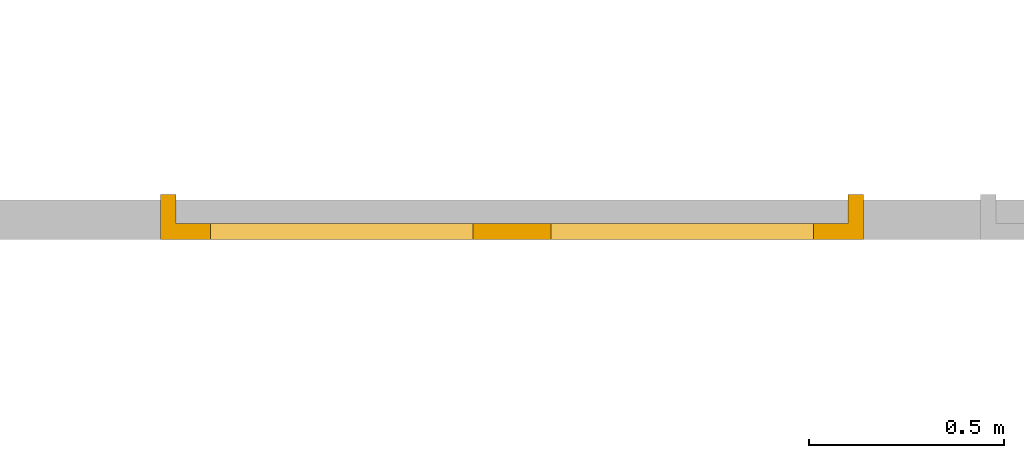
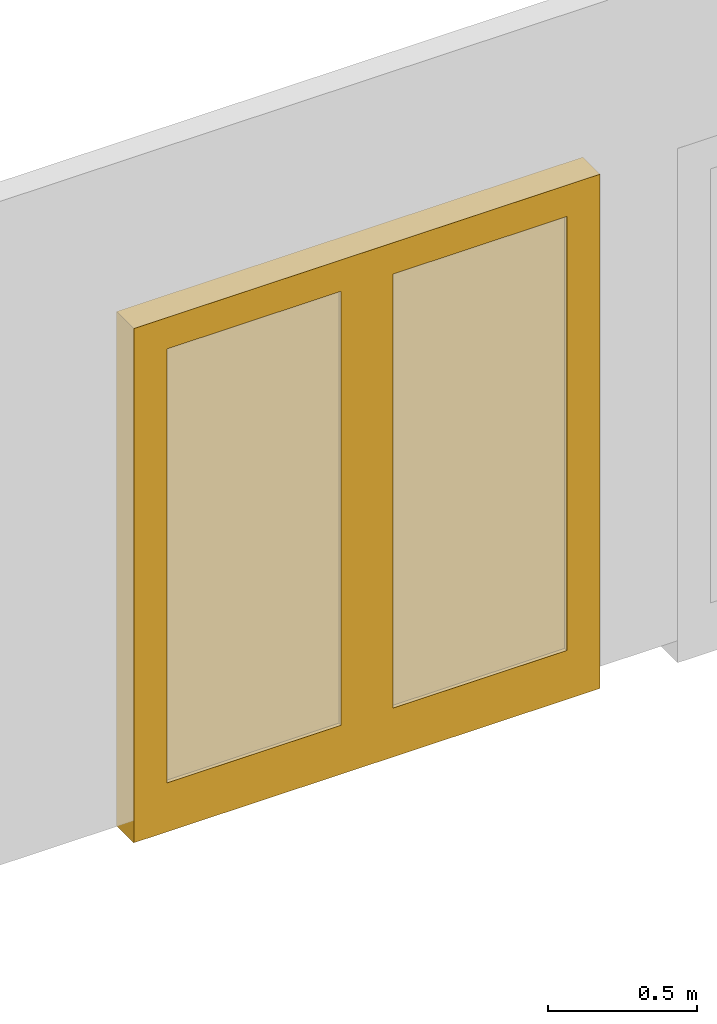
# One storey, part 7 of 22: 1 door.
"""IFC2X3 building model written with IfcOpenShell, lengths in millimetres."""

from ifc_helpers import new_model, entity, si_unit, converted_unit, derived_unit, direction, frame, origin, place, context, subcontext, project, spatial, face_set, surface_model, source, transform, mapped, material, material_list, type_object, type_shapes, element, save


model = new_model("IFC2X3")

# Units and contexts
model_context = context("Model", 3, precision=0.01, world=origin(), true_north=direction((6.12303176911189e-17, 1.0)))
body_context = subcontext(model_context, "Body", "Model", "MODEL_VIEW")
ifc_project = project(units=[si_unit("LENGTHUNIT", "METRE", prefix="MILLI"), si_unit("AREAUNIT", "SQUARE_METRE"), si_unit("VOLUMEUNIT", "CUBIC_METRE"), converted_unit("PLANEANGLEUNIT", "DEGREE", entity("IfcRatioMeasure", 0.0174532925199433), si_unit("PLANEANGLEUNIT", "RADIAN"), dimensions=[0, 0, 0, 0, 0, 0, 0]), si_unit("MASSUNIT", "GRAM", prefix="KILO"), derived_unit("MASSDENSITYUNIT", [(si_unit("MASSUNIT", "GRAM", prefix="KILO"), 1), (si_unit("LENGTHUNIT", "METRE"), -3)]), si_unit("TIMEUNIT", "SECOND"), si_unit("FREQUENCYUNIT", "HERTZ"), si_unit("THERMODYNAMICTEMPERATUREUNIT", "DEGREE_CELSIUS"), derived_unit("THERMALTRANSMITTANCEUNIT", [(si_unit("MASSUNIT", "GRAM", prefix="KILO"), 1), (si_unit("THERMODYNAMICTEMPERATUREUNIT", "KELVIN"), -1), (si_unit("TIMEUNIT", "SECOND"), -3)]), derived_unit("VOLUMETRICFLOWRATEUNIT", [(si_unit("LENGTHUNIT", "METRE"), 3), (si_unit("TIMEUNIT", "SECOND"), -1)]), si_unit("ELECTRICCURRENTUNIT", "AMPERE"), si_unit("ELECTRICVOLTAGEUNIT", "VOLT"), si_unit("POWERUNIT", "WATT"), si_unit("FORCEUNIT", "NEWTON", prefix="KILO"), si_unit("ILLUMINANCEUNIT", "LUX"), si_unit("LUMINOUSFLUXUNIT", "LUMEN"), si_unit("LUMINOUSINTENSITYUNIT", "CANDELA"), derived_unit("USERDEFINED", [(si_unit("MASSUNIT", "GRAM", prefix="KILO"), -1), (si_unit("LENGTHUNIT", "METRE"), -2), (si_unit("TIMEUNIT", "SECOND"), 3), (si_unit("LUMINOUSFLUXUNIT", "LUMEN"), 1)]), derived_unit("LINEARVELOCITYUNIT", [(si_unit("LENGTHUNIT", "METRE"), 1), (si_unit("TIMEUNIT", "SECOND"), -1)]), si_unit("PRESSUREUNIT", "PASCAL"), derived_unit("USERDEFINED", [(si_unit("LENGTHUNIT", "METRE"), -2), (si_unit("MASSUNIT", "GRAM", prefix="KILO"), 1), (si_unit("TIMEUNIT", "SECOND"), -2)])], contexts=[model_context])

# Site, building, storey
site_placement = place(None, origin())
site = spatial("IfcSite", under=ifc_project, at=site_placement, Name="Default", CompositionType="ELEMENT")
building_placement = place(site_placement, origin())
building = spatial("IfcBuilding", under=site, at=building_placement, CompositionType="ELEMENT")
storey_placement = place(building_placement, frame((0.0, 0.0, -3000.0)))
storey = spatial("IfcBuildingStorey", under=building, at=storey_placement, Name="-2. Story", CompositionType="ELEMENT", Elevation=-3000.0)

# Door
ifc_material_1 = material(Name="Paint - Titanium White")
ifc_material_2 = material(Name="Glass - Clear Fast")
ifc_material_list_1 = material_list([ifc_material_1, ifc_material_2])
ifc_material_list_2 = material_list([ifc_material_1, ifc_material_2])
door_style = type_object("IfcDoorStyle", Name="DOO - 002", ConstructionType="NOTDEFINED", OperationType="DOUBLE_DOOR_SINGLE_SWING", ParameterTakesPrecedence=False, Sizeable=False, material=ifc_material_list_2)
shared_shape = source(origin(), body_context, "Body", "SurfaceModel", [
    surface_model("IfcFaceBasedSurfaceModel", [(80818.8569215, 74543.1569014, -3000.0), (80818.8569215, 74543.1569014, -940.0), (80818.8569215, 74618.1569014, -940.0), (80818.8569215, 74618.1569014, -3000.0), (80830.8569215, 74543.1569014, -940.0), (80818.8569215, 74543.1569014, -940.0), (80818.8569215, 74543.1569014, -3000.0), (80830.8569215, 74543.1569014, -3000.0), (80830.8569215, 74543.1569014, -940.0), (80830.8569215, 74503.1569014, -940.0), (80858.8569215, 74503.1569014, -940.0), (80858.8569215, 74618.1569014, -940.0), (80818.8569215, 74618.1569014, -940.0), (80818.8569215, 74543.1569014, -940.0), (80818.8569215, 74618.1569014, -3000.0), (80818.8569215, 74618.1569014, -940.0), (80858.8569215, 74618.1569014, -940.0), (80858.8569215, 74618.1569014, -3000.0), (80830.8569215, 74543.1569014, -3000.0), (80818.8569215, 74543.1569014, -3000.0), (80818.8569215, 74618.1569014, -3000.0), (80858.8569215, 74618.1569014, -3000.0), (80858.8569215, 74503.1569014, -3000.0), (80830.8569215, 74503.1569014, -3000.0), (80830.8569215, 74503.1569014, -940.0), (80830.8569215, 74543.1569014, -940.0), (80830.8569215, 74543.1569014, -3000.0), (80830.8569215, 74503.1569014, -3000.0), (80830.8569215, 74503.1569014, -940.0), (80830.8569215, 74503.1569014, -3000.0), (80858.8569215, 74503.1569014, -3000.0), (80858.8569215, 74503.1569014, -940.0), (80858.8569215, 74503.1569014, -3000.0), (80858.8569215, 74618.1569014, -3000.0), (80858.8569215, 74618.1569014, -940.0), (80858.8569215, 74503.1569014, -940.0), (79086.8569215, 74543.1569014, -940.0), (79098.8569215, 74543.1569014, -940.0), (79098.8569215, 74618.1569014, -940.0), (79058.8569215, 74618.1569014, -940.0), (79058.8569215, 74503.1569014, -940.0), (79086.8569215, 74503.1569014, -940.0), (79098.8569215, 74543.1569014, -940.0), (79086.8569215, 74543.1569014, -940.0), (79086.8569215, 74543.1569014, -3000.0), (79098.8569215, 74543.1569014, -3000.0), (79098.8569215, 74543.1569014, -940.0), (79098.8569215, 74543.1569014, -3000.0), (79098.8569215, 74618.1569014, -3000.0), (79098.8569215, 74618.1569014, -940.0), (79058.8569215, 74618.1569014, -940.0), (79098.8569215, 74618.1569014, -940.0), (79098.8569215, 74618.1569014, -3000.0), (79058.8569215, 74618.1569014, -3000.0), (79058.8569215, 74503.1569014, -940.0), (79058.8569215, 74618.1569014, -940.0), (79058.8569215, 74618.1569014, -3000.0), (79058.8569215, 74503.1569014, -3000.0), (79086.8569215, 74503.1569014, -3000.0), (79086.8569215, 74503.1569014, -940.0), (79058.8569215, 74503.1569014, -940.0), (79058.8569215, 74503.1569014, -3000.0), (79086.8569215, 74543.1569014, -940.0), (79086.8569215, 74503.1569014, -940.0), (79086.8569215, 74503.1569014, -3000.0), (79086.8569215, 74543.1569014, -3000.0), (79086.8569215, 74543.1569014, -3000.0), (79086.8569215, 74503.1569014, -3000.0), (79058.8569215, 74503.1569014, -3000.0), (79058.8569215, 74618.1569014, -3000.0), (79098.8569215, 74618.1569014, -3000.0), (79098.8569215, 74543.1569014, -3000.0), (80830.8569215, 74503.1569014, -928.0), (80830.8569215, 74503.1569014, -940.0), (80858.8569215, 74503.1569014, -940.0), (80858.8569215, 74503.1569014, -900.0), (79058.8569215, 74503.1569014, -900.0), (79058.8569215, 74503.1569014, -940.0), (79086.8569215, 74503.1569014, -940.0), (79086.8569215, 74503.1569014, -928.0), (80830.8569215, 74503.1569014, -940.0), (80830.8569215, 74503.1569014, -928.0), (80830.8569215, 74543.1569014, -928.0), (80830.8569215, 74543.1569014, -940.0), (80830.8569215, 74543.1569014, -940.0), (80818.8569215, 74543.1569014, -940.0), (80818.8569215, 74618.1569014, -940.0), (80858.8569215, 74618.1569014, -940.0), (80858.8569215, 74503.1569014, -940.0), (80830.8569215, 74503.1569014, -940.0), (80858.8569215, 74503.1569014, -940.0), (80858.8569215, 74618.1569014, -940.0), (80858.8569215, 74618.1569014, -900.0), (80858.8569215, 74503.1569014, -900.0), (80858.8569215, 74503.1569014, -900.0), (80858.8569215, 74618.1569014, -900.0), (79058.8569215, 74618.1569014, -900.0), (79058.8569215, 74503.1569014, -900.0), (79058.8569215, 74503.1569014, -900.0), (79058.8569215, 74618.1569014, -900.0), (79058.8569215, 74618.1569014, -940.0), (79058.8569215, 74503.1569014, -940.0), (79086.8569215, 74543.1569014, -940.0), (79086.8569215, 74503.1569014, -940.0), (79058.8569215, 74503.1569014, -940.0), (79058.8569215, 74618.1569014, -940.0), (79098.8569215, 74618.1569014, -940.0), (79098.8569215, 74543.1569014, -940.0), (79086.8569215, 74503.1569014, -928.0), (79086.8569215, 74503.1569014, -940.0), (79086.8569215, 74543.1569014, -940.0), (79086.8569215, 74543.1569014, -928.0), (80830.8569215, 74503.1569014, -928.0), (79086.8569215, 74503.1569014, -928.0), (79086.8569215, 74543.1569014, -928.0), (80830.8569215, 74543.1569014, -928.0), (79086.8569215, 74543.1569014, -940.0), (79098.8569215, 74543.1569014, -940.0), (80818.8569215, 74543.1569014, -940.0), (80830.8569215, 74543.1569014, -940.0), (80830.8569215, 74543.1569014, -928.0), (79086.8569215, 74543.1569014, -928.0), (80818.8569215, 74543.1569014, -940.0), (79098.8569215, 74543.1569014, -940.0), (79098.8569215, 74618.1569014, -940.0), (80818.8569215, 74618.1569014, -940.0), (79098.8569215, 74618.1569014, -940.0), (79058.8569215, 74618.1569014, -940.0), (79058.8569215, 74618.1569014, -900.0), (80858.8569215, 74618.1569014, -900.0), (80858.8569215, 74618.1569014, -940.0), (80818.8569215, 74618.1569014, -940.0), (79086.8569215, 74503.1569014, -2800.0), (79086.8569215, 74543.1569014, -2800.0), (79186.8569215, 74543.1569014, -2800.0), (79186.8569215, 74503.1569014, -2800.0), (79086.8569215, 74503.1569014, -1028.0), (79086.8569215, 74543.1569014, -1028.0), (79086.8569215, 74543.1569014, -2800.0), (79086.8569215, 74503.1569014, -2800.0), (79086.8569215, 74543.1569014, -2800.0), (79086.8569215, 74543.1569014, -1028.0), (79186.8569215, 74543.1569014, -1028.0), (79186.8569215, 74543.1569014, -2800.0), (79186.8569215, 74503.1569014, -2800.0), (79186.8569215, 74543.1569014, -2800.0), (79186.8569215, 74543.1569014, -1028.0), (79186.8569215, 74503.1569014, -1028.0), (79086.8569215, 74503.1569014, -2800.0), (79186.8569215, 74503.1569014, -2800.0), (79186.8569215, 74503.1569014, -1028.0), (79086.8569215, 74503.1569014, -1028.0), (79186.8569215, 74503.1569014, -1028.0), (79186.8569215, 74543.1569014, -1028.0), (79086.8569215, 74543.1569014, -1028.0), (79086.8569215, 74503.1569014, -1028.0), (79958.8569215, 74503.1569014, -2800.0), (79958.8569215, 74543.1569014, -2800.0), (79958.8569215, 74543.1569014, -1028.0), (79958.8569215, 74503.1569014, -1028.0), (79858.8569215, 74503.1569014, -2800.0), (79858.8569215, 74543.1569014, -2800.0), (79958.8569215, 74543.1569014, -2800.0), (79958.8569215, 74503.1569014, -2800.0), (79958.8569215, 74543.1569014, -2800.0), (79858.8569215, 74543.1569014, -2800.0), (79858.8569215, 74543.1569014, -1028.0), (79958.8569215, 74543.1569014, -1028.0), (79958.8569215, 74503.1569014, -1028.0), (79958.8569215, 74543.1569014, -1028.0), (79858.8569215, 74543.1569014, -1028.0), (79858.8569215, 74503.1569014, -1028.0), (79958.8569215, 74503.1569014, -2800.0), (79958.8569215, 74503.1569014, -1028.0), (79858.8569215, 74503.1569014, -1028.0), (79858.8569215, 74503.1569014, -2800.0), (79858.8569215, 74503.1569014, -1028.0), (79858.8569215, 74543.1569014, -1028.0), (79858.8569215, 74543.1569014, -2800.0), (79858.8569215, 74503.1569014, -2800.0), (79086.8569215, 74503.1569014, -3000.0), (79086.8569215, 74543.1569014, -3000.0), (79958.8569215, 74543.1569014, -3000.0), (79958.8569215, 74503.1569014, -3000.0), (79086.8569215, 74503.1569014, -2800.0), (79086.8569215, 74543.1569014, -2800.0), (79086.8569215, 74543.1569014, -3000.0), (79086.8569215, 74503.1569014, -3000.0), (79086.8569215, 74543.1569014, -3000.0), (79086.8569215, 74543.1569014, -2800.0), (79186.8569215, 74543.1569014, -2800.0), (79858.8569215, 74543.1569014, -2800.0), (79958.8569215, 74543.1569014, -2800.0), (79958.8569215, 74543.1569014, -3000.0), (79958.8569215, 74503.1569014, -3000.0), (79958.8569215, 74543.1569014, -3000.0), (79958.8569215, 74543.1569014, -2800.0), (79958.8569215, 74503.1569014, -2800.0), (79086.8569215, 74503.1569014, -3000.0), (79958.8569215, 74503.1569014, -3000.0), (79958.8569215, 74503.1569014, -2800.0), (79858.8569215, 74503.1569014, -2800.0), (79186.8569215, 74503.1569014, -2800.0), (79086.8569215, 74503.1569014, -2800.0), (79186.8569215, 74503.1569014, -2800.0), (79186.8569215, 74543.1569014, -2800.0), (79086.8569215, 74543.1569014, -2800.0), (79086.8569215, 74503.1569014, -2800.0), (79858.8569215, 74503.1569014, -2800.0), (79858.8569215, 74543.1569014, -2800.0), (79186.8569215, 74543.1569014, -2800.0), (79186.8569215, 74503.1569014, -2800.0), (79958.8569215, 74503.1569014, -2800.0), (79958.8569215, 74543.1569014, -2800.0), (79858.8569215, 74543.1569014, -2800.0), (79858.8569215, 74503.1569014, -2800.0), (79086.8569215, 74503.1569014, -928.0), (79086.8569215, 74543.1569014, -928.0), (79086.8569215, 74543.1569014, -1028.0), (79086.8569215, 74503.1569014, -1028.0), (79958.8569215, 74503.1569014, -928.0), (79958.8569215, 74543.1569014, -928.0), (79086.8569215, 74543.1569014, -928.0), (79086.8569215, 74503.1569014, -928.0), (79086.8569215, 74543.1569014, -928.0), (79958.8569215, 74543.1569014, -928.0), (79958.8569215, 74543.1569014, -1028.0), (79858.8569215, 74543.1569014, -1028.0), (79186.8569215, 74543.1569014, -1028.0), (79086.8569215, 74543.1569014, -1028.0), (79086.8569215, 74503.1569014, -1028.0), (79086.8569215, 74543.1569014, -1028.0), (79186.8569215, 74543.1569014, -1028.0), (79186.8569215, 74503.1569014, -1028.0), (79086.8569215, 74503.1569014, -928.0), (79086.8569215, 74503.1569014, -1028.0), (79186.8569215, 74503.1569014, -1028.0), (79858.8569215, 74503.1569014, -1028.0), (79958.8569215, 74503.1569014, -1028.0), (79958.8569215, 74503.1569014, -928.0), (79958.8569215, 74503.1569014, -1028.0), (79958.8569215, 74543.1569014, -1028.0), (79958.8569215, 74543.1569014, -928.0), (79958.8569215, 74503.1569014, -928.0), (79858.8569215, 74503.1569014, -1028.0), (79858.8569215, 74543.1569014, -1028.0), (79958.8569215, 74543.1569014, -1028.0), (79958.8569215, 74503.1569014, -1028.0), (79186.8569215, 74503.1569014, -1028.0), (79186.8569215, 74543.1569014, -1028.0), (79858.8569215, 74543.1569014, -1028.0), (79858.8569215, 74503.1569014, -1028.0), (80830.8569215, 74503.1569014, -2800.0), (80730.8569215, 74503.1569014, -2800.0), (80730.8569215, 74543.1569014, -2800.0), (80830.8569215, 74543.1569014, -2800.0), (80830.8569215, 74503.1569014, -2800.0), (80830.8569215, 74503.1569014, -1028.0), (80730.8569215, 74503.1569014, -1028.0), (80730.8569215, 74503.1569014, -2800.0), (80730.8569215, 74503.1569014, -2800.0), (80730.8569215, 74503.1569014, -1028.0), (80730.8569215, 74543.1569014, -1028.0), (80730.8569215, 74543.1569014, -2800.0), (80830.8569215, 74543.1569014, -2800.0), (80730.8569215, 74543.1569014, -2800.0), (80730.8569215, 74543.1569014, -1028.0), (80830.8569215, 74543.1569014, -1028.0), (80830.8569215, 74503.1569014, -1028.0), (80830.8569215, 74503.1569014, -2800.0), (80830.8569215, 74543.1569014, -2800.0), (80830.8569215, 74543.1569014, -1028.0), (80730.8569215, 74503.1569014, -1028.0), (80830.8569215, 74503.1569014, -1028.0), (80830.8569215, 74543.1569014, -1028.0), (80730.8569215, 74543.1569014, -1028.0), (79958.8569215, 74503.1569014, -2800.0), (79958.8569215, 74503.1569014, -1028.0), (79958.8569215, 74543.1569014, -1028.0), (79958.8569215, 74543.1569014, -2800.0), (79958.8569215, 74503.1569014, -2800.0), (80058.8569215, 74503.1569014, -2800.0), (80058.8569215, 74503.1569014, -1028.0), (79958.8569215, 74503.1569014, -1028.0), (79958.8569215, 74503.1569014, -1028.0), (80058.8569215, 74503.1569014, -1028.0), (80058.8569215, 74543.1569014, -1028.0), (79958.8569215, 74543.1569014, -1028.0), (79958.8569215, 74543.1569014, -2800.0), (79958.8569215, 74543.1569014, -1028.0), (80058.8569215, 74543.1569014, -1028.0), (80058.8569215, 74543.1569014, -2800.0), (80058.8569215, 74503.1569014, -2800.0), (79958.8569215, 74503.1569014, -2800.0), (79958.8569215, 74543.1569014, -2800.0), (80058.8569215, 74543.1569014, -2800.0), (80058.8569215, 74503.1569014, -1028.0), (80058.8569215, 74503.1569014, -2800.0), (80058.8569215, 74543.1569014, -2800.0), (80058.8569215, 74543.1569014, -1028.0), (80830.8569215, 74503.1569014, -3000.0), (79958.8569215, 74503.1569014, -3000.0), (79958.8569215, 74543.1569014, -3000.0), (80830.8569215, 74543.1569014, -3000.0), (80830.8569215, 74503.1569014, -3000.0), (80830.8569215, 74503.1569014, -2800.0), (80730.8569215, 74503.1569014, -2800.0), (80058.8569215, 74503.1569014, -2800.0), (79958.8569215, 74503.1569014, -2800.0), (79958.8569215, 74503.1569014, -3000.0), (79958.8569215, 74503.1569014, -3000.0), (79958.8569215, 74503.1569014, -2800.0), (79958.8569215, 74543.1569014, -2800.0), (79958.8569215, 74543.1569014, -3000.0), (80830.8569215, 74543.1569014, -3000.0), (79958.8569215, 74543.1569014, -3000.0), (79958.8569215, 74543.1569014, -2800.0), (80058.8569215, 74543.1569014, -2800.0), (80730.8569215, 74543.1569014, -2800.0), (80830.8569215, 74543.1569014, -2800.0), (80830.8569215, 74503.1569014, -2800.0), (80830.8569215, 74503.1569014, -3000.0), (80830.8569215, 74543.1569014, -3000.0), (80830.8569215, 74543.1569014, -2800.0), (80730.8569215, 74503.1569014, -2800.0), (80830.8569215, 74503.1569014, -2800.0), (80830.8569215, 74543.1569014, -2800.0), (80730.8569215, 74543.1569014, -2800.0), (80058.8569215, 74503.1569014, -2800.0), (80730.8569215, 74503.1569014, -2800.0), (80730.8569215, 74543.1569014, -2800.0), (80058.8569215, 74543.1569014, -2800.0), (79958.8569215, 74503.1569014, -2800.0), (80058.8569215, 74503.1569014, -2800.0), (80058.8569215, 74543.1569014, -2800.0), (79958.8569215, 74543.1569014, -2800.0), (80830.8569215, 74503.1569014, -928.0), (80830.8569215, 74503.1569014, -1028.0), (80830.8569215, 74543.1569014, -1028.0), (80830.8569215, 74543.1569014, -928.0), (80830.8569215, 74503.1569014, -928.0), (79958.8569215, 74503.1569014, -928.0), (79958.8569215, 74503.1569014, -1028.0), (80058.8569215, 74503.1569014, -1028.0), (80730.8569215, 74503.1569014, -1028.0), (80830.8569215, 74503.1569014, -1028.0), (80830.8569215, 74503.1569014, -1028.0), (80730.8569215, 74503.1569014, -1028.0), (80730.8569215, 74543.1569014, -1028.0), (80830.8569215, 74543.1569014, -1028.0), (80830.8569215, 74543.1569014, -928.0), (80830.8569215, 74543.1569014, -1028.0), (80730.8569215, 74543.1569014, -1028.0), (80058.8569215, 74543.1569014, -1028.0), (79958.8569215, 74543.1569014, -1028.0), (79958.8569215, 74543.1569014, -928.0), (79958.8569215, 74503.1569014, -928.0), (80830.8569215, 74503.1569014, -928.0), (80830.8569215, 74543.1569014, -928.0), (79958.8569215, 74543.1569014, -928.0), (79958.8569215, 74503.1569014, -1028.0), (79958.8569215, 74503.1569014, -928.0), (79958.8569215, 74543.1569014, -928.0), (79958.8569215, 74543.1569014, -1028.0), (80058.8569215, 74503.1569014, -1028.0), (79958.8569215, 74503.1569014, -1028.0), (79958.8569215, 74543.1569014, -1028.0), (80058.8569215, 74543.1569014, -1028.0), (80730.8569215, 74503.1569014, -1028.0), (80058.8569215, 74503.1569014, -1028.0), (80058.8569215, 74543.1569014, -1028.0), (80730.8569215, 74543.1569014, -1028.0)], [face_set([[[0, 1, 2, 3]]]), face_set([[[4, 5, 6, 7]]]), face_set([[[8, 9, 10, 11, 12, 13]]]), face_set([[[14, 15, 16, 17]]]), face_set([[[18, 19, 20, 21, 22, 23]]]), face_set([[[24, 25, 26, 27]]]), face_set([[[28, 29, 30, 31]]]), face_set([[[32, 33, 34, 35]]]), face_set([[[36, 37, 38, 39, 40, 41]]]), face_set([[[42, 43, 44, 45]]]), face_set([[[46, 47, 48, 49]]]), face_set([[[50, 51, 52, 53]]]), face_set([[[54, 55, 56, 57]]]), face_set([[[58, 59, 60, 61]]]), face_set([[[62, 63, 64, 65]]]), face_set([[[66, 67, 68, 69, 70, 71]]]), face_set([[[72, 73, 74, 75, 76, 77, 78, 79]]]), face_set([[[80, 81, 82, 83]]]), face_set([[[84, 85, 86, 87, 88, 89]]]), face_set([[[90, 91, 92, 93]]]), face_set([[[94, 95, 96, 97]]]), face_set([[[98, 99, 100, 101]]]), face_set([[[102, 103, 104, 105, 106, 107]]]), face_set([[[108, 109, 110, 111]]]), face_set([[[112, 113, 114, 115]]]), face_set([[[116, 117, 118, 119, 120, 121]]]), face_set([[[122, 123, 124, 125]]]), face_set([[[126, 127, 128, 129, 130, 131]]]), face_set([[[132, 133, 134, 135]]]), face_set([[[136, 137, 138, 139]]]), face_set([[[140, 141, 142, 143]]]), face_set([[[144, 145, 146, 147]]]), face_set([[[148, 149, 150, 151]]]), face_set([[[152, 153, 154, 155]]]), face_set([[[156, 157, 158, 159]]]), face_set([[[160, 161, 162, 163]]]), face_set([[[164, 165, 166, 167]]]), face_set([[[168, 169, 170, 171]]]), face_set([[[172, 173, 174, 175]]]), face_set([[[176, 177, 178, 179]]]), face_set([[[180, 181, 182, 183]]]), face_set([[[184, 185, 186, 187]]]), face_set([[[188, 189, 190, 191, 192, 193]]]), face_set([[[194, 195, 196, 197]]]), face_set([[[198, 199, 200, 201, 202, 203]]]), face_set([[[204, 205, 206, 207]]]), face_set([[[208, 209, 210, 211]]]), face_set([[[212, 213, 214, 215]]]), face_set([[[216, 217, 218, 219]]]), face_set([[[220, 221, 222, 223]]]), face_set([[[224, 225, 226, 227, 228, 229]]]), face_set([[[230, 231, 232, 233]]]), face_set([[[234, 235, 236, 237, 238, 239]]]), face_set([[[240, 241, 242, 243]]]), face_set([[[244, 245, 246, 247]]]), face_set([[[248, 249, 250, 251]]]), face_set([[[252, 253, 254, 255]]]), face_set([[[256, 257, 258, 259]]]), face_set([[[260, 261, 262, 263]]]), face_set([[[264, 265, 266, 267]]]), face_set([[[268, 269, 270, 271]]]), face_set([[[272, 273, 274, 275]]]), face_set([[[276, 277, 278, 279]]]), face_set([[[280, 281, 282, 283]]]), face_set([[[284, 285, 286, 287]]]), face_set([[[288, 289, 290, 291]]]), face_set([[[292, 293, 294, 295]]]), face_set([[[296, 297, 298, 299]]]), face_set([[[300, 301, 302, 303]]]), face_set([[[304, 305, 306, 307, 308, 309]]]), face_set([[[310, 311, 312, 313]]]), face_set([[[314, 315, 316, 317, 318, 319]]]), face_set([[[320, 321, 322, 323]]]), face_set([[[324, 325, 326, 327]]]), face_set([[[328, 329, 330, 331]]]), face_set([[[332, 333, 334, 335]]]), face_set([[[336, 337, 338, 339]]]), face_set([[[340, 341, 342, 343, 344, 345]]]), face_set([[[346, 347, 348, 349]]]), face_set([[[350, 351, 352, 353, 354, 355]]]), face_set([[[356, 357, 358, 359]]]), face_set([[[360, 361, 362, 363]]]), face_set([[[364, 365, 366, 367]]]), face_set([[[368, 369, 370, 371]]])]),
    surface_model("IfcFaceBasedSurfaceModel", [(79186.8569215, 74517.1569014, -2800.0), (79858.8569215, 74517.1569014, -2800.0), (79858.8569215, 74517.1569014, -1028.0), (79186.8569215, 74517.1569014, -1028.0), (79186.8569215, 74529.1569014, -2800.0), (79186.8569215, 74529.1569014, -1028.0), (79858.8569215, 74529.1569014, -1028.0), (79858.8569215, 74529.1569014, -2800.0), (80730.8569215, 74517.1569014, -2800.0), (80730.8569215, 74517.1569014, -1028.0), (80058.8569215, 74517.1569014, -1028.0), (80058.8569215, 74517.1569014, -2800.0), (80730.8569215, 74529.1569014, -2800.0), (80058.8569215, 74529.1569014, -2800.0), (80058.8569215, 74529.1569014, -1028.0), (80730.8569215, 74529.1569014, -1028.0)], [face_set([[[0, 1, 2, 3]]]), face_set([[[4, 5, 6, 7]]]), face_set([[[8, 9, 10, 11]]]), face_set([[[12, 13, 14, 15]]])]),
])
type_shapes(door_style, [shared_shape])
door_placement = place(storey_placement, frame((0.0, 0.0, 3000.0)))
element("IfcDoor", 1, at=door_placement, inside=storey, type_object=door_style, material=ifc_material_list_1, Name="DOO - 002 1459265 4:DOO - 002 1459265 4", ObjectType="DOO - 002 1459265 4:DOO - 002 1459265 4", OverallHeight=0.0, OverallWidth=1800.00000000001, context=body_context, shape_type="MappedRepresentation", body=[
    mapped(shared_shape, transform((0.0, 0.0, 0.0), scale=1.0)),
])

save(model, "model.ifc")
